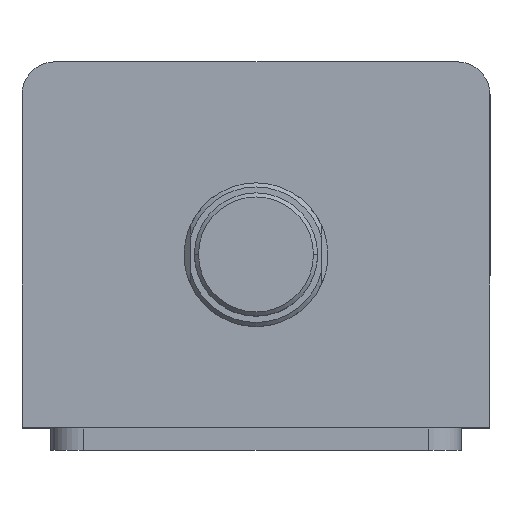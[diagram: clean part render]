
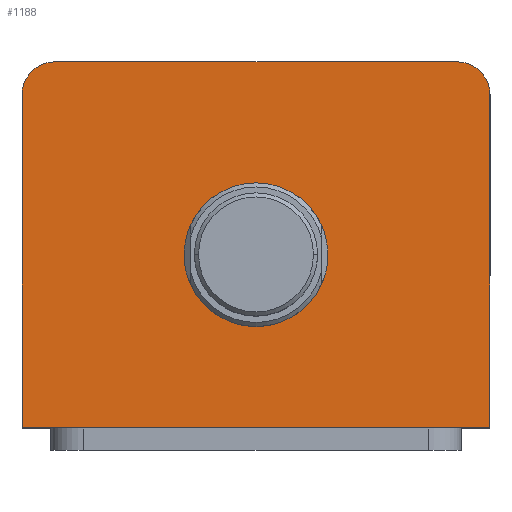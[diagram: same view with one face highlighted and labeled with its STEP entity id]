
A CAD part, top view. The second image highlights one B-rep face of the part: STEP entity #1188.
In plain terms, the highlighted planar face has unit normal (0, 0, 1).
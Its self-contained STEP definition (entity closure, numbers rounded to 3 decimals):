
#77 = VECTOR ( 'NONE', #269, 1000. ) ;
#80 = LINE ( 'NONE', #277, #77 ) ;
#86 = CIRCLE ( 'NONE', #2645, 8. ) ;
#99 = CIRCLE ( 'NONE', #2633, 8. ) ;
#108 = VECTOR ( 'NONE', #732, 1000. ) ;
#153 = CIRCLE ( 'NONE', #2595, 17.5 ) ;
#158 = CIRCLE ( 'NONE', #2593, 17.5 ) ;
#202 = LINE ( 'NONE', #734, #108 ) ;
#219 = VECTOR ( 'NONE', #790, 1000. ) ;
#223 = LINE ( 'NONE', #792, #219 ) ;
#269 = DIRECTION ( 'NONE',  ( 0., -1., 0. ) ) ;
#277 = CARTESIAN_POINT ( 'NONE',  ( -57., 44.5, 137. ) ) ;
#312 = DIRECTION ( 'NONE',  ( 1., 0., 0. ) ) ;
#313 = DIRECTION ( 'NONE',  ( 0., 0., 1. ) ) ;
#317 = CARTESIAN_POINT ( 'NONE',  ( -49., 36.5, 137. ) ) ;
#454 = DIRECTION ( 'NONE',  ( 1., 0., 0. ) ) ;
#457 = DIRECTION ( 'NONE',  ( 0., 0., 1. ) ) ;
#462 = CARTESIAN_POINT ( 'NONE',  ( 49., 36.5, 137. ) ) ;
#506 = EDGE_CURVE ( 'NONE', #1381, #1697, #158, .T. ) ;
#509 = EDGE_CURVE ( 'NONE', #1697, #1381, #153, .T. ) ;
#725 = DIRECTION ( 'NONE',  ( 1., 0., 0. ) ) ;
#727 = DIRECTION ( 'NONE',  ( 0., 0., 1. ) ) ;
#732 = DIRECTION ( 'NONE',  ( -1., 0., 0. ) ) ;
#734 = CARTESIAN_POINT ( 'NONE',  ( -57., 44.5, 137. ) ) ;
#745 = DIRECTION ( 'NONE',  ( 0., 0., 1. ) ) ;
#751 = CARTESIAN_POINT ( 'NONE',  ( 0., -2.5, 137. ) ) ;
#755 = DIRECTION ( 'NONE',  ( 1., 0., 0. ) ) ;
#758 = CARTESIAN_POINT ( 'NONE',  ( 0., -2.5, 137. ) ) ;
#790 = DIRECTION ( 'NONE',  ( 0., 1., 0. ) ) ;
#792 = CARTESIAN_POINT ( 'NONE',  ( 57., 44.5, 137. ) ) ;
#845 = DIRECTION ( 'NONE',  ( 1., 0., 0. ) ) ;
#847 = CARTESIAN_POINT ( 'NONE',  ( -57., -44.5, 137. ) ) ;
#1002 = EDGE_CURVE ( 'NONE', #1708, #1364, #3323, .T. ) ;
#1031 = EDGE_CURVE ( 'NONE', #1364, #1675, #223, .T. ) ;
#1073 = EDGE_CURVE ( 'NONE', #1663, #1342, #202, .T. ) ;
#1086 = EDGE_CURVE ( 'NONE', #1675, #1663, #99, .T. ) ;
#1105 = EDGE_CURVE ( 'NONE', #1342, #1335, #86, .T. ) ;
#1109 = EDGE_CURVE ( 'NONE', #1335, #1708, #80, .T. ) ;
#1188 = ADVANCED_FACE ( 'NONE', ( #1923, #1928 ), #3511, .T. ) ;
#1335 = VERTEX_POINT ( 'NONE', #3493 ) ;
#1342 = VERTEX_POINT ( 'NONE', #3482 ) ;
#1344 = ORIENTED_EDGE ( 'NONE', *, *, #1002, .T. ) ;
#1364 = VERTEX_POINT ( 'NONE', #3461 ) ;
#1381 = VERTEX_POINT ( 'NONE', #3455 ) ;
#1404 = ORIENTED_EDGE ( 'NONE', *, *, #1031, .T. ) ;
#1422 = ORIENTED_EDGE ( 'NONE', *, *, #1109, .T. ) ;
#1424 = ORIENTED_EDGE ( 'NONE', *, *, #509, .F. ) ;
#1425 = ORIENTED_EDGE ( 'NONE', *, *, #1086, .T. ) ;
#1443 = ORIENTED_EDGE ( 'NONE', *, *, #1105, .T. ) ;
#1512 = ORIENTED_EDGE ( 'NONE', *, *, #1073, .T. ) ;
#1562 = ORIENTED_EDGE ( 'NONE', *, *, #506, .F. ) ;
#1663 = VERTEX_POINT ( 'NONE', #3391 ) ;
#1675 = VERTEX_POINT ( 'NONE', #3560 ) ;
#1697 = VERTEX_POINT ( 'NONE', #3106 ) ;
#1708 = VERTEX_POINT ( 'NONE', #3084 ) ;
#1923 = FACE_BOUND ( 'NONE', #2575, .T. ) ;
#1928 = FACE_OUTER_BOUND ( 'NONE', #2650, .T. ) ;
#2575 = EDGE_LOOP ( 'NONE', ( #1424, #1562 ) ) ;
#2593 = AXIS2_PLACEMENT_3D ( 'NONE', #758, #745, #755 ) ;
#2595 = AXIS2_PLACEMENT_3D ( 'NONE', #751, #727, #725 ) ;
#2633 = AXIS2_PLACEMENT_3D ( 'NONE', #462, #457, #454 ) ;
#2645 = AXIS2_PLACEMENT_3D ( 'NONE', #317, #313, #312 ) ;
#2650 = EDGE_LOOP ( 'NONE', ( #1512, #1443, #1422, #1344, #1404, #1425 ) ) ;
#2732 = AXIS2_PLACEMENT_3D ( 'NONE', #3520, #3516, #3500 ) ;
#3084 = CARTESIAN_POINT ( 'NONE',  ( -57., -44.5, 137. ) ) ;
#3106 = CARTESIAN_POINT ( 'NONE',  ( 17.5, -2.5, 137. ) ) ;
#3323 = LINE ( 'NONE', #847, #3325 ) ;
#3325 = VECTOR ( 'NONE', #845, 1000. ) ;
#3391 = CARTESIAN_POINT ( 'NONE',  ( 49., 44.5, 137. ) ) ;
#3455 = CARTESIAN_POINT ( 'NONE',  ( -17.5, -2.5, 137. ) ) ;
#3461 = CARTESIAN_POINT ( 'NONE',  ( 57., -44.5, 137. ) ) ;
#3482 = CARTESIAN_POINT ( 'NONE',  ( -49., 44.5, 137. ) ) ;
#3493 = CARTESIAN_POINT ( 'NONE',  ( -57., 36.5, 137. ) ) ;
#3500 = DIRECTION ( 'NONE',  ( 1., 0., 0. ) ) ;
#3511 = PLANE ( 'NONE',  #2732 ) ;
#3516 = DIRECTION ( 'NONE',  ( 0., 0., 1. ) ) ;
#3520 = CARTESIAN_POINT ( 'NONE',  ( 0., 0., 137. ) ) ;
#3560 = CARTESIAN_POINT ( 'NONE',  ( 57., 36.5, 137. ) ) ;
